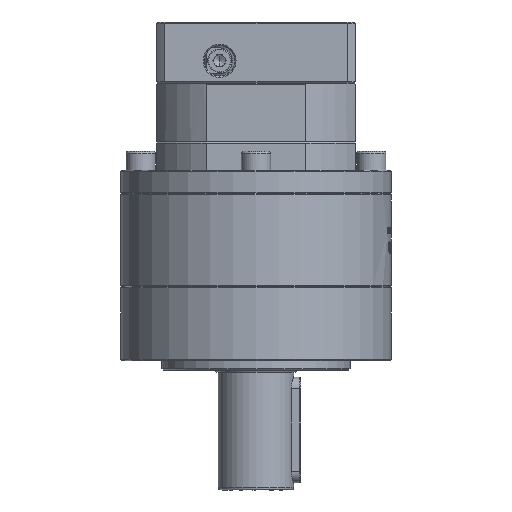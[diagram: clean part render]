
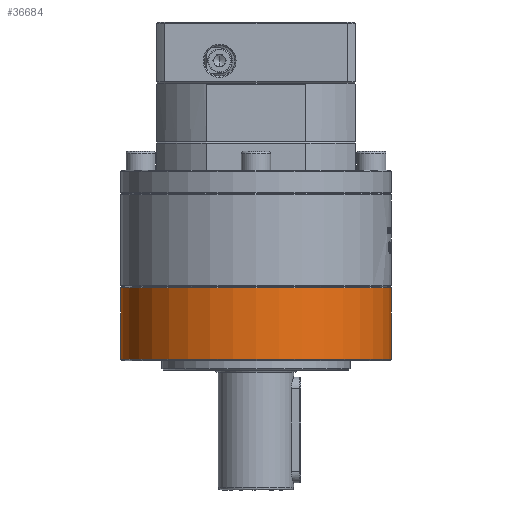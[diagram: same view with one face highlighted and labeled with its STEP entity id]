
A CAD part, left-side view. The second image highlights one B-rep face of the part: STEP entity #36684.
In plain terms, the highlighted cylindrical face has radius 57.5 mm (diameter 115 mm), a partial arc.
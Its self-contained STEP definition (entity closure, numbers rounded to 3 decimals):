
#3969 = EDGE_CURVE ( 'NONE', #56927, #113215, #81984, .T. ) ;
#6370 = AXIS2_PLACEMENT_3D ( 'NONE', #19023, #115897, #29174 ) ;
#6425 = DIRECTION ( 'NONE',  ( 0., 0., 1. ) ) ;
#8664 = CIRCLE ( 'NONE', #89869, 57.5 ) ;
#9899 = DIRECTION ( 'NONE',  ( 0., 0., 1. ) ) ;
#15595 = CARTESIAN_POINT ( 'NONE',  ( 90.36, -46.937, -94.196 ) ) ;
#16188 = VERTEX_POINT ( 'NONE', #45389 ) ;
#16272 = LINE ( 'NONE', #38379, #101397 ) ;
#17297 = ORIENTED_EDGE ( 'NONE', *, *, #19532, .F. ) ;
#19023 = CARTESIAN_POINT ( 'NONE',  ( 90.36, -46.937, -63.696 ) ) ;
#19532 = EDGE_CURVE ( 'NONE', #16188, #33794, #16272, .T. ) ;
#20904 = CARTESIAN_POINT ( 'NONE',  ( 90.36, -104.437, -63.696 ) ) ;
#27352 = CYLINDRICAL_SURFACE ( 'NONE', #38682, 57.5 ) ;
#29174 = DIRECTION ( 'NONE',  ( 0., 1., 0. ) ) ;
#31926 = ORIENTED_EDGE ( 'NONE', *, *, #100866, .F. ) ;
#32352 = CARTESIAN_POINT ( 'NONE',  ( 90.36, 10.563, -63.696 ) ) ;
#33794 = VERTEX_POINT ( 'NONE', #32352 ) ;
#34951 = CARTESIAN_POINT ( 'NONE',  ( 90.36, -104.437, -81.696 ) ) ;
#36684 = ADVANCED_FACE ( 'NONE', ( #111037 ), #27352, .T. ) ;
#38379 = CARTESIAN_POINT ( 'NONE',  ( 90.36, 10.563, -81.696 ) ) ;
#38682 = AXIS2_PLACEMENT_3D ( 'NONE', #99447, #61210, #91743 ) ;
#44488 = DIRECTION ( 'NONE',  ( 0., 0., 1. ) ) ;
#45389 = CARTESIAN_POINT ( 'NONE',  ( 90.36, 10.563, -94.196 ) ) ;
#47984 = EDGE_CURVE ( 'NONE', #16188, #56927, #8664, .T. ) ;
#56927 = VERTEX_POINT ( 'NONE', #110819 ) ;
#61210 = DIRECTION ( 'NONE',  ( 0., 0., 1. ) ) ;
#72825 = ORIENTED_EDGE ( 'NONE', *, *, #47984, .T. ) ;
#81984 = LINE ( 'NONE', #34951, #100283 ) ;
#83625 = DIRECTION ( 'NONE',  ( 0., -1., 0. ) ) ;
#89177 = CIRCLE ( 'NONE', #6370, 57.5 ) ;
#89869 = AXIS2_PLACEMENT_3D ( 'NONE', #15595, #44488, #83625 ) ;
#91743 = DIRECTION ( 'NONE',  ( 0., -1., 0. ) ) ;
#99447 = CARTESIAN_POINT ( 'NONE',  ( 90.36, -46.937, -81.696 ) ) ;
#100283 = VECTOR ( 'NONE', #6425, 1000. ) ;
#100866 = EDGE_CURVE ( 'NONE', #33794, #113215, #89177, .T. ) ;
#101397 = VECTOR ( 'NONE', #9899, 1000. ) ;
#106028 = EDGE_LOOP ( 'NONE', ( #17297, #72825, #114765, #31926 ) ) ;
#110819 = CARTESIAN_POINT ( 'NONE',  ( 90.36, -104.437, -94.196 ) ) ;
#111037 = FACE_OUTER_BOUND ( 'NONE', #106028, .T. ) ;
#113215 = VERTEX_POINT ( 'NONE', #20904 ) ;
#114765 = ORIENTED_EDGE ( 'NONE', *, *, #3969, .T. ) ;
#115897 = DIRECTION ( 'NONE',  ( 0., 0., 1. ) ) ;
